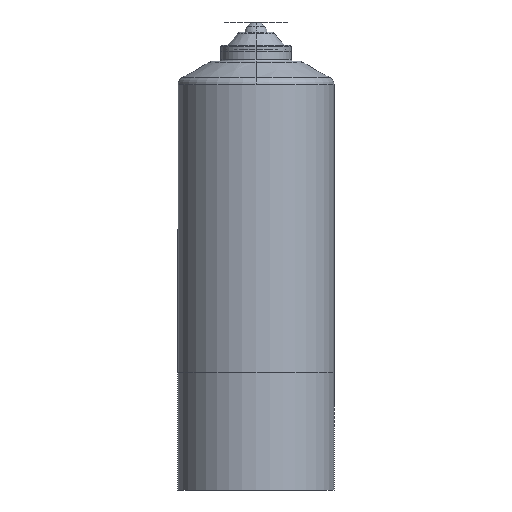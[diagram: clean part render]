
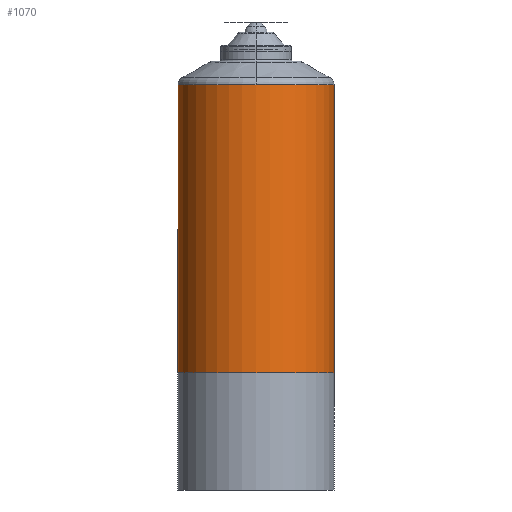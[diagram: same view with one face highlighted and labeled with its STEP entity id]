
A CAD part, left-side view. The second image highlights one B-rep face of the part: STEP entity #1070.
In plain terms, the highlighted cylindrical face has radius 10 mm (diameter 20 mm), a partial arc.
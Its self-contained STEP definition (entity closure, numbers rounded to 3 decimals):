
#42 = CARTESIAN_POINT ( 'NONE',  ( 0., 10., 63.979 ) ) ;
#267 = DIRECTION ( 'NONE',  ( 0., -1., 0. ) ) ;
#330 = CIRCLE ( 'NONE', #3405, 10. ) ;
#334 = DIRECTION ( 'NONE',  ( 0., 0., 1. ) ) ;
#830 = VECTOR ( 'NONE', #9890, 1000. ) ;
#984 = EDGE_CURVE ( 'NONE', #1940, #3072, #9235, .T. ) ;
#1070 = ADVANCED_FACE ( 'NONE', ( #6726 ), #2870, .T. ) ;
#1116 = CARTESIAN_POINT ( 'NONE',  ( -10., 0., 63.979 ) ) ;
#1136 = CARTESIAN_POINT ( 'NONE',  ( 0., 0., 63.979 ) ) ;
#1203 = EDGE_LOOP ( 'NONE', ( #7903, #5279, #4121, #4167, #8313 ) ) ;
#1627 = CIRCLE ( 'NONE', #5514, 10. ) ;
#1940 = VERTEX_POINT ( 'NONE', #42 ) ;
#2083 = VERTEX_POINT ( 'NONE', #1116 ) ;
#2112 = DIRECTION ( 'NONE',  ( 0., 0., -1. ) ) ;
#2158 = DIRECTION ( 'NONE',  ( 0., -1., 0. ) ) ;
#2541 = CARTESIAN_POINT ( 'NONE',  ( 0., -10., 63. ) ) ;
#2868 = CARTESIAN_POINT ( 'NONE',  ( 0., 0., 27. ) ) ;
#2870 = CYLINDRICAL_SURFACE ( 'NONE', #10447, 10. ) ;
#3072 = VERTEX_POINT ( 'NONE', #6825 ) ;
#3223 = CARTESIAN_POINT ( 'NONE',  ( 0., 0., 63.979 ) ) ;
#3405 = AXIS2_PLACEMENT_3D ( 'NONE', #2868, #2112, #267 ) ;
#3622 = EDGE_CURVE ( 'NONE', #2083, #10566, #1627, .T. ) ;
#3864 = DIRECTION ( 'NONE',  ( 0., 0., -1. ) ) ;
#4071 = DIRECTION ( 'NONE',  ( 1., 0., 0. ) ) ;
#4121 = ORIENTED_EDGE ( 'NONE', *, *, #9993, .F. ) ;
#4167 = ORIENTED_EDGE ( 'NONE', *, *, #5614, .F. ) ;
#5017 = EDGE_CURVE ( 'NONE', #1940, #2083, #5454, .T. ) ;
#5279 = ORIENTED_EDGE ( 'NONE', *, *, #984, .T. ) ;
#5454 = CIRCLE ( 'NONE', #11151, 10. ) ;
#5514 = AXIS2_PLACEMENT_3D ( 'NONE', #3223, #11101, #4071 ) ;
#5608 = CARTESIAN_POINT ( 'NONE',  ( 0., 0., 63. ) ) ;
#5614 = EDGE_CURVE ( 'NONE', #10566, #10806, #6829, .T. ) ;
#6726 = FACE_OUTER_BOUND ( 'NONE', #1203, .T. ) ;
#6825 = CARTESIAN_POINT ( 'NONE',  ( 0., 10., 27. ) ) ;
#6829 = LINE ( 'NONE', #2541, #7388 ) ;
#7155 = CARTESIAN_POINT ( 'NONE',  ( 0., -10., 27. ) ) ;
#7367 = DIRECTION ( 'NONE',  ( 1., 0., 0. ) ) ;
#7388 = VECTOR ( 'NONE', #8871, 1000. ) ;
#7544 = CARTESIAN_POINT ( 'NONE',  ( 0., -10., 63.979 ) ) ;
#7903 = ORIENTED_EDGE ( 'NONE', *, *, #5017, .F. ) ;
#8313 = ORIENTED_EDGE ( 'NONE', *, *, #3622, .F. ) ;
#8527 = CARTESIAN_POINT ( 'NONE',  ( 0., 10., 63. ) ) ;
#8871 = DIRECTION ( 'NONE',  ( 0., 0., -1. ) ) ;
#9235 = LINE ( 'NONE', #8527, #830 ) ;
#9890 = DIRECTION ( 'NONE',  ( 0., 0., -1. ) ) ;
#9993 = EDGE_CURVE ( 'NONE', #10806, #3072, #330, .T. ) ;
#10447 = AXIS2_PLACEMENT_3D ( 'NONE', #5608, #3864, #2158 ) ;
#10566 = VERTEX_POINT ( 'NONE', #7544 ) ;
#10806 = VERTEX_POINT ( 'NONE', #7155 ) ;
#11101 = DIRECTION ( 'NONE',  ( 0., 0., 1. ) ) ;
#11151 = AXIS2_PLACEMENT_3D ( 'NONE', #1136, #334, #7367 ) ;
